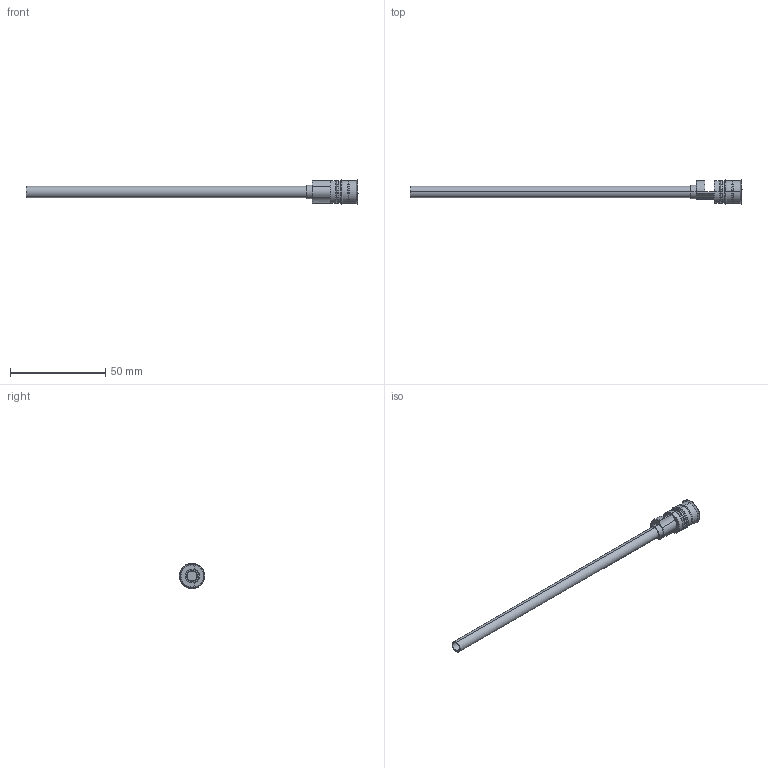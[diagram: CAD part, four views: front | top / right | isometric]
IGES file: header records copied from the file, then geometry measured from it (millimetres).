
Start section: START RECORD GO HERE.
Global section: file name: RF-12Fx150_6.igs; native system: DASSAULT SYSTEMES CATIA V5 R20 - www.3ds.com; preprocessor: CATIA Version 5 Release 20 ; author: Utente; organization: NB04-ASUS; date: 20210223.202942; units: millimetre
Bounding box: 174 x 13.3 x 13.3 mm (x, y, z)
Surface area: 6762.2 mm2 (no closed solid volume)
Topology: 0 solids, 0 shells, 73 faces, 408 edges, 408 vertices
Faces by surface type: revolution 47, plane 26
